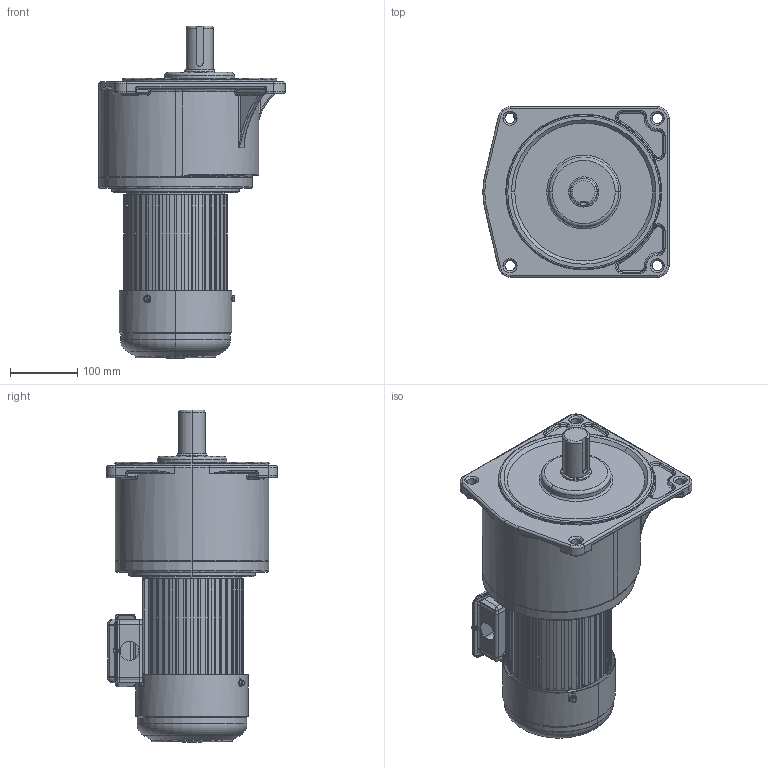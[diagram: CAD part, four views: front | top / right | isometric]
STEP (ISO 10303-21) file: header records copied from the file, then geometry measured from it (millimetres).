
FILE_DESCRIPTION (( 'STEP AP203' ), '1' );
FILE_NAME ('单相750W5#立式.STEP', '2015-10-31T07:55:32', ( '微软中国' ), ( '微软用户' ), 'SwSTEP 2.0', 'SolidWorks 2009', '' );
FILE_SCHEMA (( 'CONFIG_CONTROL_DESIGN' ));
Length unit declared in the file: millimetre
Products named in the file (11): 750W儂褲; 棠憤迖殤400W; 鞠褒蹟邡_GB_FASTENER_BOLT_HFBB M5X10-N; Cross recessed pan head screws GB_GB_CROSS_SCREWS_TYPE1 M5X6-6  H type-N; 等眈750W5#蕾宒; 5#蕾宒眊极; 等眈750W; 等眈 瑞欶400W; 等眈諉盄碟窒璃; 等眈諉盄碟裔; 等眈諉盄碟釱
Assembly tree (12 placements, depth 4):
  等眈750W5#蕾宒
    等眈750W
      鞠褒蹟邡_GB_FASTENER_BOLT_HFBB M5X10-N  x3
      棠憤迖殤400W
      等眈諉盄碟窒璃
        等眈諉盄碟裔
        Cross recessed pan head screws GB_GB_CROSS_SCREWS_TYPE1 M5X6-6  H type-N
        等眈諉盄碟釱
      等眈 瑞欶400W
      750W儂褲
    5#蕾宒眊极
Bounding box: 277.1 x 254.2 x 494 mm (x, y, z)
Volume: 9406402.5 mm3; surface area: 1116747 mm2
Topology: 14 solids, 25 shells, 2249 faces, 5825 edges, 3591 vertices
Faces by surface type: plane 820, cylinder 720, bspline 579, torus 98, cone 30, sphere 2
Entity records: 91893 total; most frequent: CARTESIAN_POINT 39331, ORIENTED_EDGE 11294, DIRECTION 10140, EDGE_CURVE 5647, AXIS2_PLACEMENT_3D 3707, VERTEX_POINT 3530, VECTOR 2726, LINE 2726
